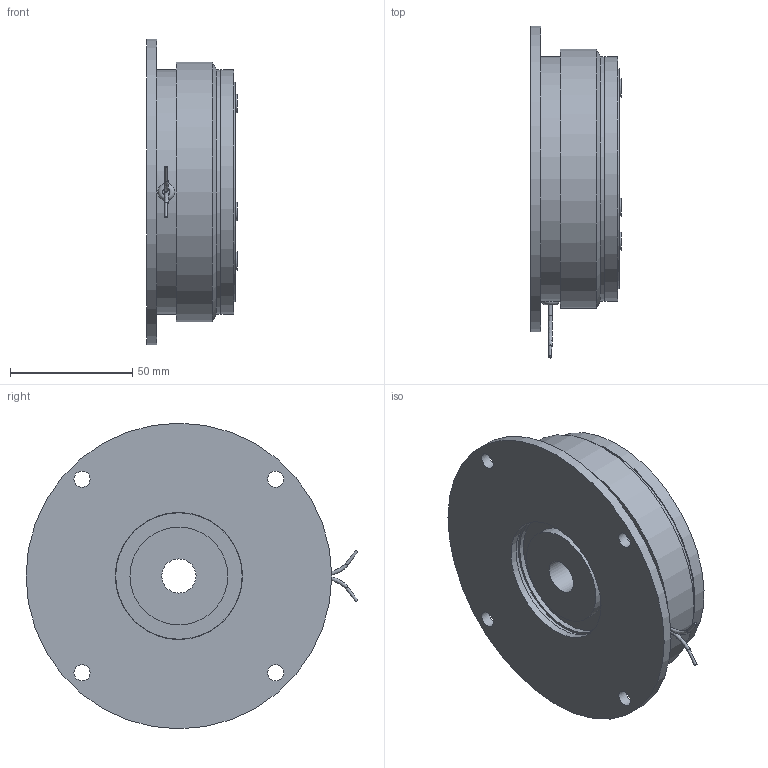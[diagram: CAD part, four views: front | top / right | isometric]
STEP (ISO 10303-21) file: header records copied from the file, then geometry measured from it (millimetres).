
FILE_DESCRIPTION(/* description */ (''),/* implementation_level */ '2;1');
FILE_NAME(/* name */ '\\Srv-tecnico\DATI\UFFICIO TECNICO\ARCHIVIO INVENTOR\DISEGNI\UFFICIO TECNICO\08_Freni_Friz_Elettromagnetici_Monodisco\08_20 ESAL\08_20_100_01 ESAL100\08_20_100_01 ESAL100@STEP.stp',/* time_stamp */ '2015-05-05T15:19:20+02:00',/* author */ ('stefano'),/* organization */ (''),/* preprocessor_version */ 'ST-DEVELOPER v15.6',/* originating_system */ 'Autodesk Inventor 2015',/* authorisation */ '');
FILE_SCHEMA (('AUTOMOTIVE_DESIGN { 1 0 10303 214 3 1 1 }'));
Length unit declared in the file: millimetre
Products named in the file (1): 08_20_100_01 ESAL100_Substitute_1
Bounding box: 37 x 135.72 x 125 mm (x, y, z)
Volume: 272414 mm3; surface area: 80229.7 mm2
Topology: 3 solids, 3 shells, 129 faces, 273 edges, 181 vertices
Faces by surface type: cylinder 73, plane 43, cone 10, bspline 2, torus 1
Full cylindrical faces by diameter (mm): 1.154 x2, 1.5 x2, 2.5 x3, 5.2 x9, 6.6 x4, 7.5 x3, 11.5 x3, 14 x1, 40 x1, 44 x1, 51.7 x1, 52 x4, 53.8 x1, 62 x1, 67 x1, 90 x1, 91 x1, 100 x3, 100.2 x1, 106 x1, 125 x1
Entity records: 3506 total; most frequent: CARTESIAN_POINT 690, DIRECTION 623, ORIENTED_EDGE 416, AXIS2_PLACEMENT_3D 297, EDGE_LOOP 241, EDGE_CURVE 203, CIRCLE 169, VERTEX_POINT 165
